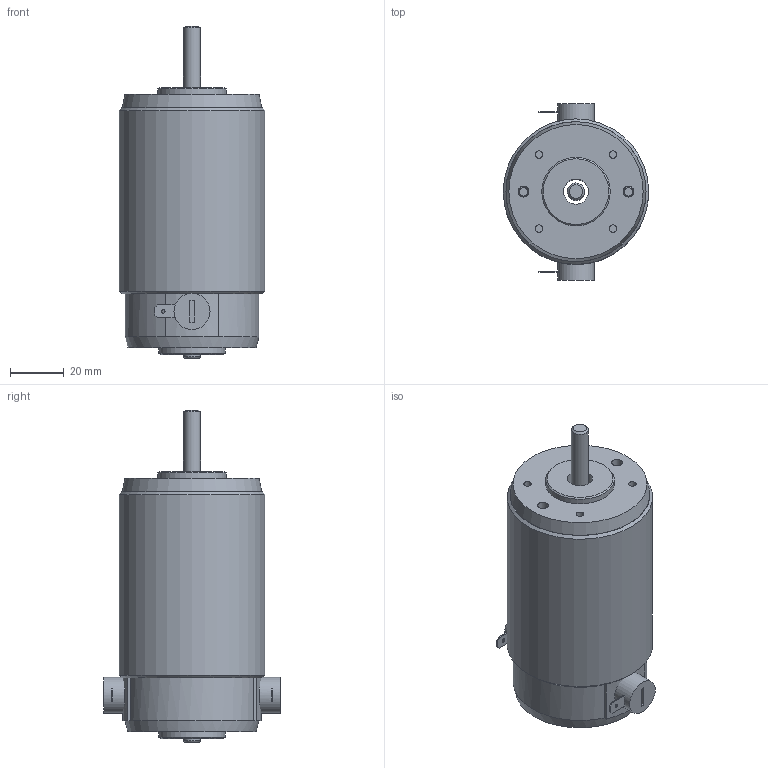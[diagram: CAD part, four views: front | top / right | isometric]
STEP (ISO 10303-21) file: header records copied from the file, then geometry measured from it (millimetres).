
FILE_DESCRIPTION((''),'2;1');
FILE_NAME('D:\연구개발부2팀 1파트\10_진행업무\3D\RM5_SERIES\RM53_TYPE.stp','2014-06-23T10:41:54',('song'),(''),'Autodesk Inventor 2011','Autodesk Inventor 2011','');
FILE_SCHEMA(('AUTOMOTIVE_DESIGN { 1 0 10303 214 1 1 1 1 }'));
Length unit declared in the file: millimetre
Products named in the file (11): RM53_TYPE; RM53_SHAFT; RM5_TYPE_REAR_HOUSING; RM5_REAR; BRUSH_HOLDER_ASSY; BRUSH_HOLDER_ASSY_MIR; RM5_BRUSH_COVER_RED; RM5_BRUSH_COVER_BRACK; RM5_PIPE_pi54XL69; RM5_FRONT; AS 1427 Z - 미터 M4 x 50
Assembly tree (11 placements, depth 3):
  RM53_TYPE
    RM53_SHAFT
    RM5_TYPE_REAR_HOUSING
      RM5_REAR
      BRUSH_HOLDER_ASSY
      BRUSH_HOLDER_ASSY_MIR
      RM5_BRUSH_COVER_RED
      RM5_BRUSH_COVER_BRACK
    RM5_PIPE_pi54XL69
    RM5_FRONT
    AS 1427 Z - 미터 M4 x 50  x2
Bounding box: 54 x 65.58 x 123.2 mm (x, y, z)
Volume: 79263.6 mm3; surface area: 44516.4 mm2
Topology: 10 solids, 10 shells, 189 faces, 459 edges, 300 vertices
Faces by surface type: plane 96, cylinder 43, cone 41, torus 9
Full cylindrical faces by diameter (mm): 1.3 x2, 2.8 x7, 3.571 x2, 4 x4, 4.2 x2, 5.76 x3, 6.336 x1, 7 x2, 9.3 x2, 11 x4, 13.4 x2, 24.5 x1, 25.4 x1, 46 x2, 49.6 x1, 54 x1
Entity records: 4639 total; most frequent: CARTESIAN_POINT 1103, DIRECTION 694, ORIENTED_EDGE 564, AXIS2_PLACEMENT_3D 289, EDGE_CURVE 282, EDGE_LOOP 238, VERTEX_POINT 212, FACE_OUTER_BOUND 148
